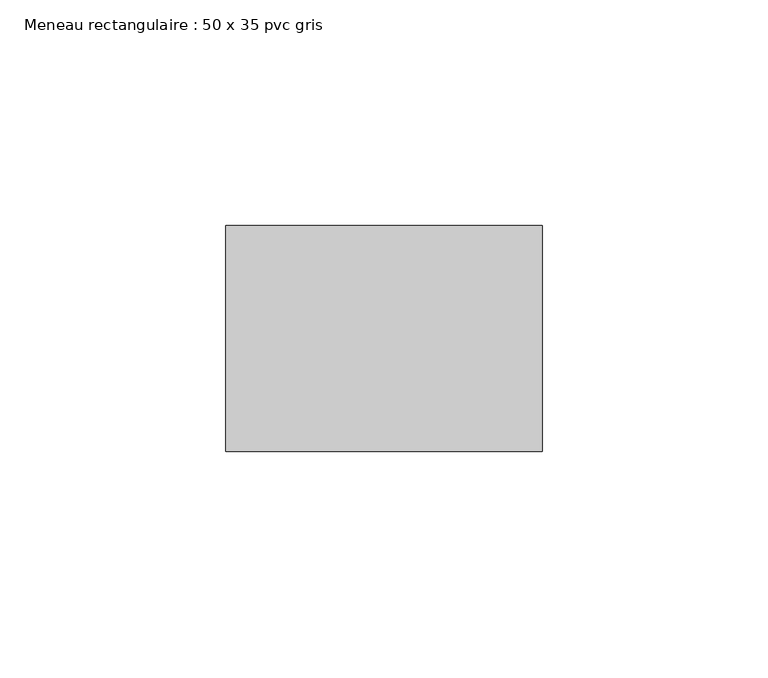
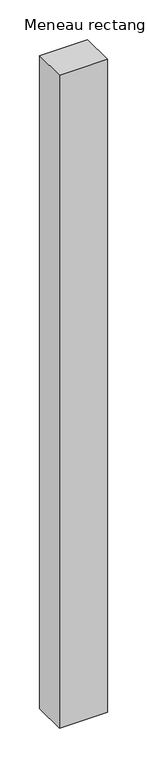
"""IFC4 building model written with IfcOpenShell, lengths in millimetres: member geometry, Meneau rectangulaire : 50 x 35 pvc gris."""

from ifc_helpers import new_model, si_unit, frame, origin, place, context, project, spatial, polyline, outline, extrude, source, transform, mapped, element, save


def meneau_rectangulaire_50_x_35_pvc_gris_cd4de5b2(model_context):
    return source(origin(), model_context, "Body", "SweptSolid", [
        extrude(outline(polyline([(0.0, 0.0), (0.0, -50.0), (-70.0, -50.0), (-70.0, 0.0), (0.0, 0.0)])), frame((0.0, 0.0, -1003.0), z_axis=(0.0, 0.0, 1.0), x_axis=(1.0, 0.0, 0.0)), (0.0, 0.0, 1.0), 1003.0),
    ])


if __name__ == "__main__":
    model = new_model("IFC4")
    model_context = context("Model", 3, world=origin())
    ifc_project = project(units=[si_unit("LENGTHUNIT", "METRE", prefix="MILLI")], contexts=[model_context])
    site = spatial("IfcSite", under=ifc_project)
    building = spatial("IfcBuilding", under=site)
    placement = place(None, origin())
    meneau_rectangulaire_50_x_35_pvc_gris_shape = meneau_rectangulaire_50_x_35_pvc_gris_cd4de5b2(model_context)
    element("IfcMember", 1, ObjectType="Meneau rectangulaire : 50 x 35 pvc gris", at=placement, inside=building, context=model_context, shape_type="MappedRepresentation", body=[
        mapped(meneau_rectangulaire_50_x_35_pvc_gris_shape, transform((0.0, 0.0, 0.0), x_axis=(1.0, 0.0, 0.0), y_axis=(0.0, 1.0, 0.0), z_axis=(0.0, 0.0, 1.0))),
    ])
    save(model, "model.ifc")
